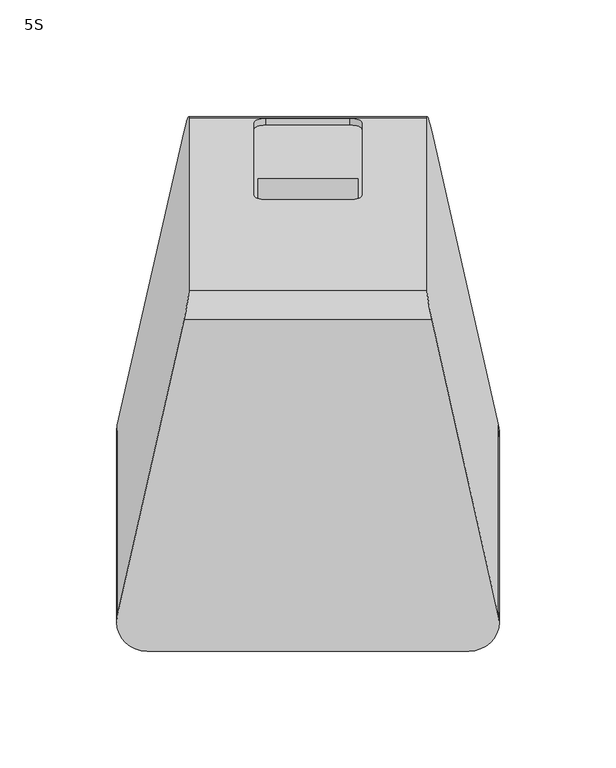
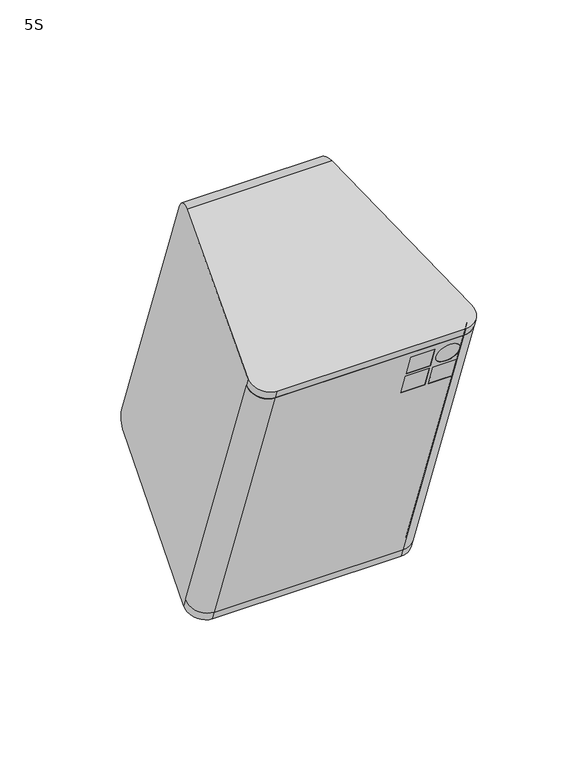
"""IFC4 building model written with IfcOpenShell, lengths in millimetres: proxy geometry, d&b xS-Series 5S Point Source : 5S."""

from ifc_helpers import new_model, si_unit, point, frame, frame_2d, origin, place, context, project, spatial, polyline, circle_curve, ellipse_curve, trimmed, segment, composite_curve, outline, extrude, source, transform, mapped, element, save
from ifc_brep_helpers import plane_surface, cylinder_surface, revolved_surface, advanced_brep


def proxy_5s_22a98614(model_context):
    return source(origin(), model_context, "Body", "SolidModel", [
        extrude(outline(composite_curve([segment(polyline([(-137.892674, 0.0), (0.0, 0.0)]), True, "CONTINUOUS"), segment(trimmed(circle_curve(frame_2d((0.0, -8.0)), 8.0), [point((0.0, 0.0))], [point((7.529581, -10.7028519))], False, "CARTESIAN"), True, "CONTINUOUS"), segment(polyline([(7.529581, -10.7028519), (-145.422255, -10.7028519)]), True, "CONTINUOUS"), segment(trimmed(circle_curve(frame_2d((-137.892674, -8.0)), 8.0), [point((-145.422255, -10.7028519))], [point((-137.892674, 0.0))], False, "CARTESIAN"), True, "CONTINUOUS")], self_intersect=False)), frame((-68.946337, -31.8531425, -131.7695402), z_axis=(0.0, -0.34202014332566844, 0.9396926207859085), x_axis=(-1.0, 0.0, 0.0)), (0.0, 0.0, 1.0), 225.8568964),
        advanced_brep(
        [(51.146337, -99.2633576, 38.8194816), (51.146337, -94.5648945, 40.5295823), (51.146337, -100.550247, 56.9742032), (51.146337, -105.2487101, 55.2641025), (68.646337, -100.550247, 56.9742032), (68.646337, -105.2487101, 55.2641025), (68.646337, -94.5648945, 40.5295823), (68.646337, -99.2633576, 38.8194816), (31.146337, -99.2633576, 38.8194816), (31.146337, -94.5648945, 40.5295823), (31.146337, -100.550247, 56.9742032), (31.146337, -105.2487101, 55.2641025), (48.646337, -100.550247, 56.9742032), (48.646337, -105.2487101, 55.2641025), (48.646337, -94.5648945, 40.5295823), (48.646337, -99.2633576, 38.8194816), (31.146337, -106.1037605, 57.613334), (31.146337, -101.4052974, 59.3234348), (31.146337, -107.3906499, 75.7680556), (31.146337, -112.089113, 74.0579549), (48.646337, -107.3906499, 75.7680556), (48.646337, -112.089113, 74.0579549), (48.646337, -101.4052974, 59.3234348), (48.646337, -106.1037605, 57.613334), (59.896337, -112.089113, 74.0579549), (59.896337, -107.3906499, 75.7680556), (59.896337, -101.4052974, 59.3234348), (59.896337, -106.1037605, 57.613334), (68.946337, -36.5516056, -133.4796409), (-68.946337, -36.5516056, -133.4796409), (-81.6622558, -21.7957515, -128.1089493), (-76.475918, -21.7957515, -128.1089493), (-68.946337, -31.8531425, -131.7695402), (68.946337, -31.8531425, -131.7695402), (76.475918, -21.7957515, -128.1089493), (81.6622558, -21.7957515, -128.1089493), (68.946337, -113.7992137, 78.756418), (81.6622558, -99.0433596, 84.1271097), (76.475918, -99.0433596, 84.1271097), (68.946337, -109.1007506, 80.4665187), (-68.946337, -109.1007506, 80.4665187), (-76.475918, -99.0433596, 84.1271097), (-81.6622558, -99.0433596, 84.1271097), (-68.946337, -113.7992137, 78.756418)],
        [
            (0, 1),
            (1, 2),
            (2, 3),
            (3, 0),
            (2, 4),
            (4, 5),
            (5, 3),
            (4, 6),
            (6, 7),
            (7, 5),
            (0, 7),
            (6, 1),
            (8, 9),
            (9, 10),
            (10, 11),
            (11, 8),
            (10, 12),
            (12, 13),
            (13, 11),
            (12, 14),
            (14, 15),
            (15, 13),
            (8, 15),
            (14, 9),
            (16, 17),
            (17, 18),
            (18, 19),
            (19, 16),
            (18, 20),
            (20, 21),
            (21, 19),
            (20, 22),
            (22, 23),
            (23, 21),
            (16, 23),
            (22, 17),
            (24, 25),
            (25, 26, circle_curve(frame((59.896337, -104.3979736, 67.5457452), z_axis=(0.0, 0.9396926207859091, 0.34202014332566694), x_axis=(0.0, 0.34202014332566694, -0.9396926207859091)), 8.75)),
            (26, 27),
            (27, 24, circle_curve(frame((59.896337, -109.0964367, 65.8356445), z_axis=(0.0, -0.9396926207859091, -0.34202014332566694), x_axis=(0.0, 0.34202014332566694, -0.9396926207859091)), 8.75)),
            (24, 27, circle_curve(frame((59.896337, -109.0964367, 65.8356445), z_axis=(0.0, -0.9396926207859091, -0.34202014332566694), x_axis=(0.0, 0.34202014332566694, -0.9396926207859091)), 8.75)),
            (26, 25, circle_curve(frame((59.896337, -104.3979736, 67.5457452), z_axis=(0.0, 0.9396926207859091, 0.34202014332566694), x_axis=(0.0, 0.34202014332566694, -0.9396926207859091)), 8.75)),
            (28, 29),
            (29, 30, circle_curve(frame((-68.946337, -24.3356015, -129.0333791), z_axis=(0.0, 0.34202014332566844, -0.9396926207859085), x_axis=(0.0, -0.9396926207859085, -0.34202014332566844)), 13.0)),
            (30, 31),
            (31, 32, circle_curve(frame((-68.946337, -24.3356015, -129.0333791), z_axis=(0.0, -0.34202014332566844, 0.9396926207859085), x_axis=(0.0, -0.9396926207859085, -0.34202014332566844)), 8.0)),
            (32, 33),
            (33, 34, circle_curve(frame((68.946337, -24.3356015, -129.0333791), z_axis=(0.0, -0.34202014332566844, 0.9396926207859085), x_axis=(0.0, -0.9396926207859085, -0.34202014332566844)), 8.0)),
            (34, 35),
            (35, 28, circle_curve(frame((68.946337, -24.3356015, -129.0333791), z_axis=(0.0, 0.34202014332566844, -0.9396926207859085), x_axis=(0.0, -0.9396926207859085, -0.34202014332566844)), 13.0)),
            (36, 37, circle_curve(frame((68.946337, -101.5832096, 83.2026799), z_axis=(0.0, -0.34202014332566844, 0.9396926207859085), x_axis=(0.0, -0.9396926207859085, -0.34202014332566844)), 13.0)),
            (37, 38),
            (38, 39, circle_curve(frame((68.946337, -101.5832096, 83.2026799), z_axis=(0.0, 0.34202014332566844, -0.9396926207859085), x_axis=(0.0, -0.9396926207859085, -0.34202014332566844)), 8.0)),
            (39, 40),
            (40, 41, circle_curve(frame((-68.946337, -101.5832096, 83.2026799), z_axis=(0.0, 0.34202014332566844, -0.9396926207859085), x_axis=(0.0, -0.9396926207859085, -0.34202014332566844)), 8.0)),
            (41, 42),
            (42, 43, circle_curve(frame((-68.946337, -101.5832096, 83.2026799), z_axis=(0.0, -0.34202014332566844, 0.9396926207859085), x_axis=(0.0, -0.9396926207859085, -0.34202014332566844)), 13.0)),
            (43, 36),
            (28, 36),
            (43, 29),
            (42, 30),
            (41, 31),
            (40, 32),
            (39, 33),
            (38, 34),
            (37, 35),
        ],
        [
            plane_surface(frame((51.146337, -105.2487101, 55.2641025), z_axis=(1.0, 0.0, 0.0), x_axis=(0.0, 0.9396926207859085, 0.34202014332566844))),
            plane_surface(frame((68.646337, -105.2487101, 55.2641025), z_axis=(0.0, 0.34202014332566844, -0.9396926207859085), x_axis=(0.0, 0.9396926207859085, 0.34202014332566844))),
            plane_surface(frame((68.646337, -99.2633576, 38.8194816), z_axis=(-1.0, 0.0, 0.0), x_axis=(0.0, 0.9396926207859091, 0.3420201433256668))),
            plane_surface(frame((51.146337, -99.2633576, 38.8194816), z_axis=(0.0, -0.3420201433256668, 0.9396926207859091), x_axis=(0.0, 0.9396926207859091, 0.3420201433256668))),
            plane_surface(frame((31.146337, -105.2487101, 55.2641025), z_axis=(1.0, 0.0, 0.0), x_axis=(0.0, 0.9396926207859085, 0.34202014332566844))),
            plane_surface(frame((48.646337, -105.2487101, 55.2641025), z_axis=(0.0, 0.34202014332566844, -0.9396926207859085), x_axis=(0.0, 0.9396926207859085, 0.34202014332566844))),
            plane_surface(frame((48.646337, -99.2633576, 38.8194816), z_axis=(-1.0, 0.0, 0.0), x_axis=(0.0, 0.9396926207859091, 0.3420201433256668))),
            plane_surface(frame((31.146337, -99.2633576, 38.8194816), z_axis=(0.0, -0.3420201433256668, 0.9396926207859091), x_axis=(0.0, 0.9396926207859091, 0.3420201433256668))),
            plane_surface(frame((31.146337, -112.089113, 74.0579549), z_axis=(1.0, 0.0, 0.0), x_axis=(0.0, 0.9396926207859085, 0.34202014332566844))),
            plane_surface(frame((48.646337, -112.089113, 74.0579549), z_axis=(0.0, 0.34202014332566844, -0.9396926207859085), x_axis=(0.0, 0.9396926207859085, 0.34202014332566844))),
            plane_surface(frame((48.646337, -106.1037605, 57.613334), z_axis=(-1.0, 0.0, 0.0), x_axis=(0.0, 0.9396926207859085, 0.34202014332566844))),
            plane_surface(frame((31.146337, -106.1037605, 57.613334), z_axis=(0.0, -0.34202014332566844, 0.9396926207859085), x_axis=(0.0, 0.9396926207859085, 0.34202014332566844))),
            revolved_surface(polyline([(59.896337, -106.10376052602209, 57.61333407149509), (59.896337, -101.40529736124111, 59.32343481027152)]), (59.896337, -167.5901489, 44.5456744), (0.0, -0.9396926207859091, -0.34202014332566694)),
            plane_surface(frame((-68.946337, -36.5516056, -133.4796409), z_axis=(0.0, 0.34202014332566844, -0.9396926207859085), x_axis=(-1.0, 0.0, 0.0))),
            plane_surface(frame((-68.946337, -113.7992137, 78.756418), z_axis=(0.0, -0.34202014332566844, 0.9396926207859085), x_axis=(1.0, 0.0, 0.0))),
            plane_surface(frame((68.946337, -36.5516056, -133.4796409), z_axis=(0.0, -0.9396926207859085, -0.34202014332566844), x_axis=(0.0, -0.34202014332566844, 0.9396926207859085))),
            cylinder_surface(frame((-68.946337, -101.5832096, 83.2026799), z_axis=(0.0, 0.34202014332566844, -0.9396926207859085), x_axis=(0.0, -0.9396926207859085, -0.34202014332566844)), 13.0),
            plane_surface(frame((-81.6622558, -21.7957515, -128.1089493), z_axis=(0.0, 0.9396926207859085, 0.34202014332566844), x_axis=(0.0, -0.34202014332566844, 0.9396926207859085))),
            revolved_surface(polyline([(-68.946337, -109.10075056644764, 80.46651875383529), (-68.946337, -31.853142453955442, -131.76954024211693)]), (-68.946337, -101.5832096, 83.2026799), (0.0, -0.34202014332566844, 0.9396926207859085)),
            plane_surface(frame((-68.946337, -31.8531425, -131.7695402), z_axis=(0.0, 0.9396926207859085, 0.34202014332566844), x_axis=(0.0, -0.34202014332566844, 0.9396926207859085))),
            revolved_surface(polyline([(68.946337, -109.10075056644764, 80.46651875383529), (68.946337, -31.853142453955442, -131.76954024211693)]), (68.946337, -101.5832096, 83.2026799), (0.0, -0.34202014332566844, 0.9396926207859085)),
            plane_surface(frame((76.475918, -21.7957515, -128.1089493), z_axis=(0.0, 0.9396926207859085, 0.34202014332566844), x_axis=(0.0, -0.34202014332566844, 0.9396926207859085))),
            cylinder_surface(frame((68.946337, -101.5832096, 83.2026799), z_axis=(0.0, 0.34202014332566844, -0.9396926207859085), x_axis=(0.0, -0.9396926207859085, -0.34202014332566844)), 13.0),
        ],
        [
            (0, [[1, 2, 3, 4]]),
            (1, [[-3, 5, 6, 7]]),
            (2, [[-6, 8, 9, 10]]),
            (3, [[-1, 11, -9, 12]]),
            (4, [[13, 14, 15, 16]]),
            (5, [[-15, 17, 18, 19]]),
            (6, [[-18, 20, 21, 22]]),
            (7, [[-13, 23, -21, 24]]),
            (8, [[25, 26, 27, 28]]),
            (9, [[-27, 29, 30, 31]]),
            (10, [[-30, 32, 33, 34]]),
            (11, [[-25, 35, -33, 36]]),
            (12, [[37, 38, 39, 40]]),
            (12, [[-37, 41, -39, 42]]),
            (13, [[43, 44, 45, 46, 47, 48, 49, 50]]),
            (14, [[51, 52, 53, 54, 55, 56, 57, 58]]),
            (15, [[-43, 59, -58, 60], [-4, -7, -10, -11], [-16, -19, -22, -23], [-28, -31, -34, -35], [-40, -41]]),
            (16, [[-44, -60, -57, 61]]),
            (17, [[-45, -61, -56, 62]]),
            (18, [[-46, -62, -55, 63]]),
            (19, [[-47, -63, -54, 64], [-2, -12, -8, -5], [-14, -24, -20, -17], [-26, -36, -32, -29], [-38, -42]]),
            (20, [[-48, -64, -53, 65]]),
            (21, [[-49, -65, -52, 66]]),
            (22, [[-50, -66, -51, -59]]),
        ],
    ),
        extrude(outline(polyline([(0.0, -17.5), (0.0, 0.0), (5.0, 0.0), (5.0, -17.5), (0.0, -17.5)])), frame((51.146337, -99.2633576, 38.8194816), z_axis=(0.0, -0.3420201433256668, 0.9396926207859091), x_axis=(0.0, 0.9396926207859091, 0.3420201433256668)), (0.0, 0.0, 1.0), 17.5),
        extrude(outline(polyline([(0.0, -17.5), (0.0, 0.0), (5.0, 0.0), (5.0, -17.5), (0.0, -17.5)])), frame((31.146337, -99.2633576, 38.8194816), z_axis=(0.0, -0.3420201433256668, 0.9396926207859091), x_axis=(0.0, 0.9396926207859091, 0.3420201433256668)), (0.0, 0.0, 1.0), 17.5),
        extrude(outline(polyline([(0.0, -17.5), (0.0, 0.0), (5.0, 0.0), (5.0, -17.5), (0.0, -17.5)])), frame((31.146337, -106.1037605, 57.613334), z_axis=(0.0, -0.34202014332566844, 0.9396926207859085), x_axis=(0.0, 0.9396926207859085, 0.34202014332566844)), (0.0, 0.0, 1.0), 17.5),
        extrude(outline(composite_curve([segment(trimmed(circle_curve(frame_2d((-8.75, -28.75)), 8.75), [point((-8.75, -37.5))], [point((-8.75, -20.0))], False, "CARTESIAN"), True, "CONTINUOUS"), segment(trimmed(circle_curve(frame_2d((-8.75, -28.75)), 8.75), [point((-8.75, -20.0))], [point((-8.75, -37.5))], False, "CARTESIAN"), True, "CONTINUOUS")], self_intersect=False)), frame((68.646337, -99.2633576, 38.8194816), z_axis=(0.0, 0.9396926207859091, 0.34202014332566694), x_axis=(1.0, 0.0, 0.0)), (0.0, 0.0, 1.0), 5.0),
        advanced_brep(
        [(23.0610927, 107.2632814, -69.5705047), (18.0610927, 108.9733821, -74.2689678), (-18.0610927, 108.9733821, -74.2689678), (-23.0610927, 107.2632814, -69.5705047), (-23.0610927, 76.0976584, 16.0563406), (-18.0610927, 74.3875577, 20.7548037), (18.0610927, 74.3875577, 20.7548037), (23.0610927, 76.0976584, 16.0563406), (16.4913486, 74.9244418, 19.2797268), (-16.4913486, 74.9244418, 19.2797268), (-21.4913486, 76.6345425, 14.5812636), (-21.4913486, 86.0096219, -11.1765554), (21.4913486, 86.0096219, -11.1765554), (21.4913486, 76.6345425, 14.5812636), (23.0610927, 110.0823592, -68.5444442), (18.0610927, 111.7924599, -73.2429073), (-18.0610927, 111.7924599, -73.2429073), (-23.0610927, 110.0823592, -68.5444442), (-23.0610927, 78.9167363, 17.082401), (-18.0610927, 77.2066356, 21.7808641), (18.0610927, 77.2066356, 21.7808641), (23.0610927, 78.9167363, 17.082401), (-16.4913486, 59.8893599, 13.8074045), (16.4913486, 59.8893599, 13.8074045), (21.4913486, 61.5994606, 9.1089414), (21.4913486, 70.97454, -16.6488776), (-21.4913486, 70.97454, -16.6488776), (-21.4913486, 61.5994606, 9.1089414), (68.946337, -36.5516056, -133.4796409), (81.6622558, -21.7957515, -128.1089493), (-81.6622558, -21.7957515, -128.1089493), (-68.946337, -36.5516056, -133.4796409), (68.946337, -113.7992137, 78.756418), (-68.946337, -113.7992137, 78.756418), (-81.6622558, -99.0433596, 84.1271097), (81.6622558, -99.0433596, 84.1271097), (81.6622558, -19.4871414, -134.4518034), (53.0826694, 106.1281672, -86.4528639), (50.9909501, 111.955694, -73.6913891), (50.9909501, 38.3951254, 128.4146121), (53.0826694, 25.728063, 134.4446069), (81.6622558, -101.3519697, 90.4699639), (-50.9909501, 111.955694, -73.6913891), (-50.9909501, 38.3951254, 128.4146121), (-81.6622558, -101.3519697, 90.4699639), (-53.0826694, 25.728063, 134.4446069), (-53.0826694, 106.1281672, -86.4528639), (-81.6622558, -19.4871414, -134.4518034), (-68.946337, -34.1574646, -140.0574893), (68.946337, -34.1574646, -140.0574893), (68.946337, -116.1933547, 85.3342663), (-68.946337, -116.1933547, 85.3342663)],
        [
            (0, 1, circle_curve(frame((18.0610927, 107.2632814, -69.5705047), z_axis=(0.0, 0.9396926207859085, 0.34202014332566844), x_axis=(1.0, 0.0, 0.0)), 5.0)),
            (1, 2),
            (2, 3, circle_curve(frame((-18.0610927, 107.2632814, -69.5705047), z_axis=(0.0, 0.9396926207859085, 0.34202014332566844), x_axis=(1.0, 0.0, 0.0)), 5.0)),
            (3, 4),
            (4, 5, circle_curve(frame((-18.0610927, 76.0976584, 16.0563406), z_axis=(0.0, 0.9396926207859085, 0.34202014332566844), x_axis=(1.0, 0.0, 0.0)), 5.0)),
            (5, 6),
            (6, 7, circle_curve(frame((18.0610927, 76.0976584, 16.0563406), z_axis=(0.0, 0.9396926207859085, 0.34202014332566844), x_axis=(1.0, 0.0, 0.0)), 5.0)),
            (7, 0),
            (8, 9),
            (9, 10, circle_curve(frame((-16.4913486, 76.6345425, 14.5812636), z_axis=(0.0, -0.9396926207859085, -0.34202014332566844), x_axis=(1.0, 0.0, 0.0)), 5.0)),
            (10, 11),
            (11, 12),
            (12, 13),
            (13, 8, circle_curve(frame((16.4913486, 76.6345425, 14.5812636), z_axis=(0.0, -0.9396926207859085, -0.34202014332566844), x_axis=(1.0, 0.0, 0.0)), 5.0)),
            (0, 14),
            (14, 15, circle_curve(frame((18.0610927, 110.0823592, -68.5444442), z_axis=(0.0, 0.9396926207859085, 0.34202014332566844), x_axis=(1.0, 0.0, 0.0)), 5.0)),
            (15, 1),
            (15, 16),
            (16, 2),
            (16, 17, circle_curve(frame((-18.0610927, 110.0823592, -68.5444442), z_axis=(0.0, 0.9396926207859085, 0.34202014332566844), x_axis=(1.0, 0.0, 0.0)), 5.0)),
            (17, 3),
            (17, 18),
            (18, 4),
            (18, 19, circle_curve(frame((-18.0610927, 78.9167363, 17.082401), z_axis=(0.0, 0.9396926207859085, 0.34202014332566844), x_axis=(1.0, 0.0, 0.0)), 5.0)),
            (19, 5),
            (19, 20),
            (20, 6),
            (20, 21, circle_curve(frame((18.0610927, 78.9167363, 17.082401), z_axis=(0.0, 0.9396926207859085, 0.34202014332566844), x_axis=(1.0, 0.0, 0.0)), 5.0)),
            (21, 7),
            (21, 14),
            (22, 23),
            (23, 24, circle_curve(frame((16.4913486, 61.5994606, 9.1089414), z_axis=(0.0, 0.9396926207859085, 0.34202014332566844), x_axis=(1.0, 0.0, 0.0)), 5.0)),
            (24, 25),
            (25, 26),
            (26, 27),
            (27, 22, circle_curve(frame((-16.4913486, 61.5994606, 9.1089414), z_axis=(0.0, 0.9396926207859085, 0.34202014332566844), x_axis=(1.0, 0.0, 0.0)), 5.0)),
            (28, 29, circle_curve(frame((68.946337, -24.3356015, -129.0333791), z_axis=(0.0, -0.34202014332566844, 0.9396926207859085), x_axis=(0.0, -0.9396926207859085, -0.34202014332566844)), 13.0)),
            (29, 30),
            (30, 31, circle_curve(frame((-68.946337, -24.3356015, -129.0333791), z_axis=(0.0, -0.34202014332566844, 0.9396926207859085), x_axis=(0.0, -0.9396926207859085, -0.34202014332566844)), 13.0)),
            (31, 28),
            (32, 33),
            (33, 34, circle_curve(frame((-68.946337, -101.5832096, 83.2026799), z_axis=(0.0, 0.34202014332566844, -0.9396926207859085), x_axis=(0.0, -0.9396926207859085, -0.34202014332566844)), 13.0)),
            (34, 35),
            (35, 32, circle_curve(frame((68.946337, -101.5832096, 83.2026799), z_axis=(0.0, 0.34202014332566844, -0.9396926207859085), x_axis=(0.0, -0.9396926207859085, -0.34202014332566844)), 13.0)),
            (22, 9),
            (8, 23),
            (13, 24),
            (12, 25),
            (11, 26),
            (10, 27),
            (29, 35),
            (34, 30),
            (29, 36),
            (36, 37),
            (37, 38, ellipse_curve(frame((53.1165157, 102.5587678, -77.1115906), z_axis=(0.9781476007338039, 0.19537308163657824, 0.07110998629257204), x_axis=(0.20791169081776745, -0.9191580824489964, -0.33454618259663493)), 10.2234059, 10.0)),
            (38, 39),
            (39, 40, ellipse_curve(frame((53.1165157, 28.9981992, 124.9944106), z_axis=(0.9781476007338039, 0.19537308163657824, 0.07110998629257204), x_axis=(0.20791169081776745, -0.9191580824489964, -0.33454618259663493)), 10.2234059, 10.0)),
            (40, 41),
            (41, 35),
            (38, 42),
            (42, 43),
            (43, 39),
            (34, 44),
            (44, 45),
            (45, 43, ellipse_curve(frame((-53.1165157, 28.9981992, 124.9944106), z_axis=(-0.9781476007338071, 0.19537308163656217, 0.07110998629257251), x_axis=(0.20791169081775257, 0.9191580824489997, 0.3345461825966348)), 10.2234059, 10.0)),
            (42, 46, ellipse_curve(frame((-53.1165157, 102.5587678, -77.1115906), z_axis=(-0.9781476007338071, 0.19537308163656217, 0.07110998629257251), x_axis=(0.20791169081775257, 0.9191580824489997, 0.3345461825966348)), 10.2234059, 10.0)),
            (46, 47),
            (47, 30),
            (31, 48),
            (48, 49),
            (49, 28),
            (47, 48, ellipse_curve(frame((-68.946337, -22.0122694, -135.4166816), z_axis=(0.0, -0.35693994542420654, 0.934127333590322), x_axis=(0.0, -0.9341273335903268, -0.3569399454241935)), 13.0016484, 13.0)),
            (49, 36, ellipse_curve(frame((68.946337, -22.0122694, -135.4166816), z_axis=(0.0, -0.35693994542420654, 0.934127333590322), x_axis=(0.0, -0.9341273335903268, -0.3569399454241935)), 13.0016484, 13.0)),
            (32, 50),
            (50, 51),
            (51, 33),
            (51, 44, ellipse_curve(frame((-68.946337, -103.9065418, 89.5859824), z_axis=(0.0, 0.3270136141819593, -0.9450196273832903), x_axis=(0.0, 0.9450196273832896, 0.3270136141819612)), 13.0016484, 13.0)),
            (41, 50, ellipse_curve(frame((68.946337, -103.9065418, 89.5859824), z_axis=(0.0, 0.3270136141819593, -0.9450196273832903), x_axis=(0.0, 0.9450196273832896, 0.3270136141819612)), 13.0016484, 13.0)),
            (46, 37),
            (40, 45),
        ],
        [
            plane_surface(frame((23.0610927, 107.2632814, -69.5705047), z_axis=(0.0, 0.9396926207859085, 0.34202014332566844), x_axis=(0.0, -0.34202014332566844, 0.9396926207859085))),
            revolved_surface(polyline([(23.0610927, 110.08235922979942, -68.54444428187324), (23.0610927, 107.26328138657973, -69.57050470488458)]), (18.0610927, 107.2632814, -69.5705047), (0.0, 0.9396926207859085, 0.34202014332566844)),
            plane_surface(frame((18.0610927, 111.7924599, -73.2429073), z_axis=(0.0, -0.34202014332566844, 0.9396926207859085), x_axis=(0.0, -0.9396926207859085, -0.34202014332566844))),
            revolved_surface(polyline([(-13.0610927, 110.08235922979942, -68.54444428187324), (-13.0610927, 107.26328138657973, -69.57050470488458)]), (-18.0610927, 107.2632814, -69.5705047), (0.0, 0.9396926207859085, 0.34202014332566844)),
            plane_surface(frame((-23.0610927, 110.0823592, -68.5444442), z_axis=(1.0, 0.0, 0.0), x_axis=(0.0, -0.9396926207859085, -0.34202014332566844))),
            revolved_surface(polyline([(-13.0610927, 78.91673629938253, 17.08240104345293), (-13.0610927, 76.0976584, 16.0563406)]), (-18.0610927, 76.0976584, 16.0563406), (0.0, 0.9396926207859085, 0.34202014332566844)),
            plane_surface(frame((-18.0610927, 77.2066356, 21.7808641), z_axis=(0.0, 0.34202014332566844, -0.9396926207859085), x_axis=(0.0, -0.9396926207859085, -0.34202014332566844))),
            revolved_surface(polyline([(23.0610927, 78.91673629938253, 17.08240104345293), (23.0610927, 76.0976584, 16.0563406)]), (18.0610927, 76.0976584, 16.0563406), (0.0, 0.9396926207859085, 0.34202014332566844)),
            plane_surface(frame((23.0610927, 78.9167363, 17.082401), z_axis=(-1.0, 0.0, 0.0), x_axis=(0.0, -0.9396926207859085, -0.34202014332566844))),
            plane_surface(frame((10.0, 59.8893599, 13.8074045), z_axis=(0.0, 0.9396926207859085, 0.34202014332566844), x_axis=(-1.0, 0.0, 0.0))),
            plane_surface(frame((-68.946337, -36.5516056, -133.4796409), z_axis=(0.0, -0.34202014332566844, 0.9396926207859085), x_axis=(1.0, 0.0, 0.0))),
            plane_surface(frame((-68.946337, -113.7992137, 78.756418), z_axis=(0.0, 0.34202014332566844, -0.9396926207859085), x_axis=(-1.0, 0.0, 0.0))),
            plane_surface(frame((-16.4913486, 77.7435197, 20.3057872), z_axis=(0.0, 0.34202014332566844, -0.9396926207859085), x_axis=(0.0, -0.9396926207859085, -0.34202014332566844))),
            revolved_surface(polyline([(21.4913486, 76.6345425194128, 14.581263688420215), (21.4913486, 61.5994606, 9.1089414)]), (16.4913486, 61.5994606, 9.1089414), (0.0, 0.9396926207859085, 0.34202014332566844)),
            plane_surface(frame((21.4913486, 79.4536204, 15.6073241), z_axis=(-1.0, 0.0, 0.0), x_axis=(0.0, -0.9396926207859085, -0.34202014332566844))),
            plane_surface(frame((21.4913486, 88.8286998, -10.1504949), z_axis=(0.0, -0.34202014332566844, 0.9396926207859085), x_axis=(0.0, -0.9396926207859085, -0.34202014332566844))),
            plane_surface(frame((-21.4913486, 88.8286998, -10.1504949), z_axis=(1.0, 0.0, 0.0), x_axis=(0.0, -0.9396926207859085, -0.34202014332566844))),
            revolved_surface(polyline([(-11.491348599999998, 76.6345425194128, 14.581263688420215), (-11.491348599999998, 61.5994606, 9.1089414)]), (-16.4913486, 61.5994606, 9.1089414), (0.0, 0.9396926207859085, 0.34202014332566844)),
            plane_surface(frame((-81.6622558, -101.4375006, 90.704958), z_axis=(0.0, -0.9396926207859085, -0.34202014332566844), x_axis=(0.0, 0.34202014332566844, -0.9396926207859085))),
            plane_surface(frame((81.6622558, -101.4375006, 90.704958), z_axis=(0.9781476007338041, 0.1953730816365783, 0.07110998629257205), x_axis=(0.0, 0.34202014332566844, -0.9396926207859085))),
            plane_surface(frame((50.9909501, 34.1574646, 140.0574893), z_axis=(0.0, 0.9396926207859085, 0.34202014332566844), x_axis=(0.0, 0.34202014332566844, -0.9396926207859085))),
            plane_surface(frame((-50.9909501, 34.1574646, 140.0574893), z_axis=(-0.9781476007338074, 0.19537308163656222, 0.07110998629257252), x_axis=(0.0, 0.34202014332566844, -0.9396926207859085))),
            plane_surface(frame((68.946337, -34.1574646, -140.0574893), z_axis=(0.0, -0.9396926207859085, -0.34202014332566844), x_axis=(0.0, -0.34202014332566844, 0.9396926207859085))),
            cylinder_surface(frame((-68.946337, -24.3356015, -129.0333791), z_axis=(0.0, 0.34202014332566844, -0.9396926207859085), x_axis=(0.0, -0.9396926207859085, -0.34202014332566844)), 13.0),
            cylinder_surface(frame((68.946337, -24.3356015, -129.0333791), z_axis=(0.0, 0.34202014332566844, -0.9396926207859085), x_axis=(0.0, -0.9396926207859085, -0.34202014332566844)), 13.0),
            plane_surface(frame((68.946337, -113.7992137, 78.756418), z_axis=(0.0, -0.9396926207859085, -0.34202014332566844), x_axis=(0.0, -0.34202014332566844, 0.9396926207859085))),
            cylinder_surface(frame((-68.946337, -103.9773506, 89.7805282), z_axis=(0.0, 0.34202014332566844, -0.9396926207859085), x_axis=(0.0, -0.9396926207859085, -0.34202014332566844)), 13.0),
            cylinder_surface(frame((68.946337, -103.9773506, 89.7805282), z_axis=(0.0, 0.34202014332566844, -0.9396926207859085), x_axis=(0.0, -0.9396926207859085, -0.34202014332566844)), 13.0),
            plane_surface(frame((-100.0, -34.1574646, -140.0574893), z_axis=(0.0, 0.35693994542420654, -0.934127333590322), x_axis=(1.0, 0.0, 0.0))),
            plane_surface(frame((-100.0, 25.728063, 134.4446069), z_axis=(0.0, -0.3270136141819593, 0.9450196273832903), x_axis=(1.0, 0.0, 0.0))),
            cylinder_surface(frame((100.0, 102.5587678, -77.1115906), z_axis=(1.0, 0.0, 0.0), x_axis=(0.0, 0.9396926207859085, 0.34202014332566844)), 10.0),
            cylinder_surface(frame((0.0, 28.9981992, 124.9944106), z_axis=(1.0, 0.0, 0.0), x_axis=(0.0, 0.9396926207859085, 0.34202014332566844)), 10.0),
        ],
        [
            (0, [[1, 2, 3, 4, 5, 6, 7, 8], [9, 10, 11, 12, 13, 14]]),
            (1, [[-1, 15, 16, 17]]),
            (2, [[-2, -17, 18, 19]]),
            (3, [[-3, -19, 20, 21]]),
            (4, [[-4, -21, 22, 23]]),
            (5, [[-5, -23, 24, 25]]),
            (6, [[-6, -25, 26, 27]]),
            (7, [[-7, -27, 28, 29]]),
            (8, [[-8, -29, 30, -15]]),
            (9, [[31, 32, 33, 34, 35, 36]]),
            (10, [[37, 38, 39, 40]]),
            (11, [[41, 42, 43, 44]]),
            (12, [[-31, 45, -9, 46]]),
            (13, [[-32, -46, -14, 47]]),
            (14, [[-33, -47, -13, 48]]),
            (15, [[-34, -48, -12, 49]]),
            (16, [[-35, -49, -11, 50]]),
            (17, [[-36, -50, -10, -45]]),
            (18, [[-38, 51, -43, 52]]),
            (19, [[-51, 53, 54, 55, 56, 57, 58, 59]]),
            (20, [[-56, 60, 61, 62], [-16, -30, -28, -26, -24, -22, -20, -18]]),
            (21, [[-52, 63, 64, 65, -61, 66, 67, 68]]),
            (22, [[-40, 69, 70, 71]]),
            (23, [[-39, -68, 72, -69]]),
            (24, [[-37, -71, 73, -53]]),
            (25, [[-41, 74, 75, 76]]),
            (26, [[-42, -76, 77, -63]]),
            (27, [[-44, -59, 78, -74]]),
            (28, [[79, -54, -73, -70, -72, -67]]),
            (29, [[80, -64, -77, -75, -78, -58]]),
            (30, [[-79, -66, -60, -55]]),
            (31, [[-80, -57, -62, -65]]),
        ],
    ),
    ])


if __name__ == "__main__":
    model = new_model("IFC4")
    model_context = context("Model", 3, world=origin())
    ifc_project = project(units=[si_unit("LENGTHUNIT", "METRE", prefix="MILLI")], contexts=[model_context])
    site = spatial("IfcSite", under=ifc_project)
    building = spatial("IfcBuilding", under=site)
    placement = place(None, origin())
    proxy_5s_shape = proxy_5s_22a98614(model_context)
    element("IfcBuildingElementProxy", 1, Name="d&b xS-Series 5S Point Source : 5S", ObjectType="d&b xS-Series 5S Point Source : 5S", at=placement, inside=building, context=model_context, shape_type="MappedRepresentation", body=[
        mapped(proxy_5s_shape, transform((0.0, 0.0, 0.0), x_axis=(1.0, 0.0, 0.0), y_axis=(0.0, 1.0, 0.0), z_axis=(0.0, 0.0, 1.0))),
    ])
    save(model, "model.ifc")
